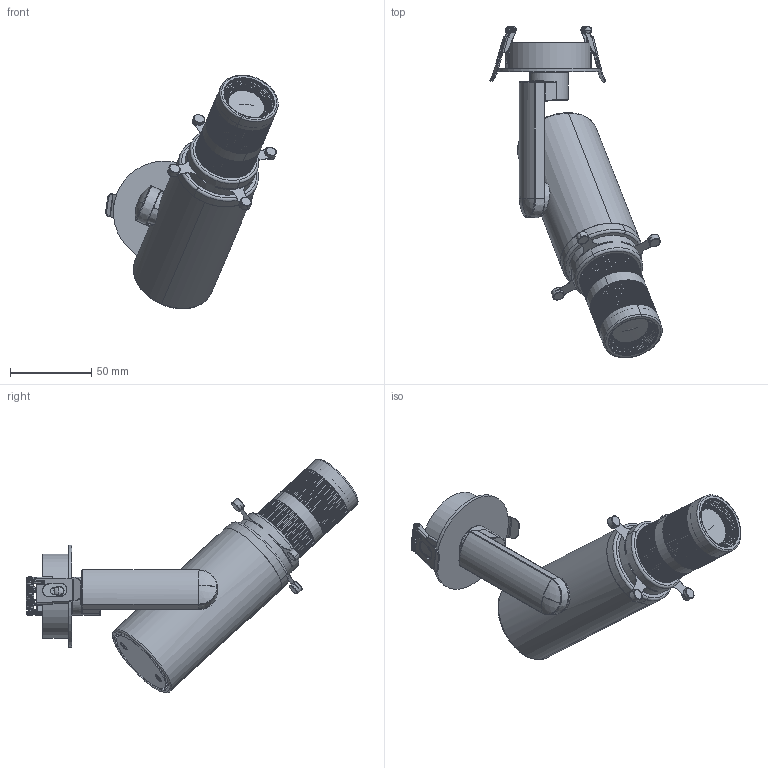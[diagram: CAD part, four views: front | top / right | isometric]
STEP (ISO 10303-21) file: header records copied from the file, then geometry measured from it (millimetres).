
FILE_DESCRIPTION (( 'STEP AP203' ), '1' );
FILE_NAME ('MODI-FP-2SPM.R.XX.STEP', '2025-05-07T04:44:15', ( '' ), ( '' ), 'SwSTEP 2.0', 'SolidWorks 2024', '' );
FILE_SCHEMA (( 'CONFIG_CONTROL_DESIGN' ));
Products named in the file (5): MODI-2-Luminaire_arm.step; MODI-FP-2SPM.R.XX; MODI-2-Luminaire_body.step; MODI-2-Framing_projector_lens.step; MODI-2-Single_point_base_recessed.step
Assembly tree (4 placements, depth 2):
  MODI-FP-2SPM.R.XX
    MODI-2-Luminaire_body.step
    MODI-2-Framing_projector_lens.step
    MODI-2-Single_point_base_recessed.step
    MODI-2-Luminaire_arm.step
Bounding box: 106.02 x 204.33 x 143.84 mm (x, y, z)
Volume: 218414.3 mm3; surface area: 129110.2 mm2
Topology: 17 solids, 48 shells, 3473 faces, 9745 edges, 6397 vertices
Faces by surface type: plane 1383, cylinder 1026, cone 534, bspline 436, torus 66, sphere 28
Entity records: 256997 total; most frequent: CARTESIAN_POINT 172240, ORIENTED_EDGE 19462, DIRECTION 15253, EDGE_CURVE 9731, VERTEX_POINT 6397, AXIS2_PLACEMENT_3D 5392, LINE 4469, VECTOR 4469
